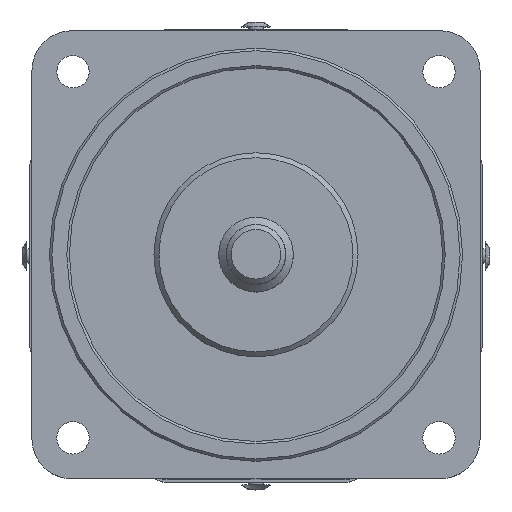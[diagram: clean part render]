
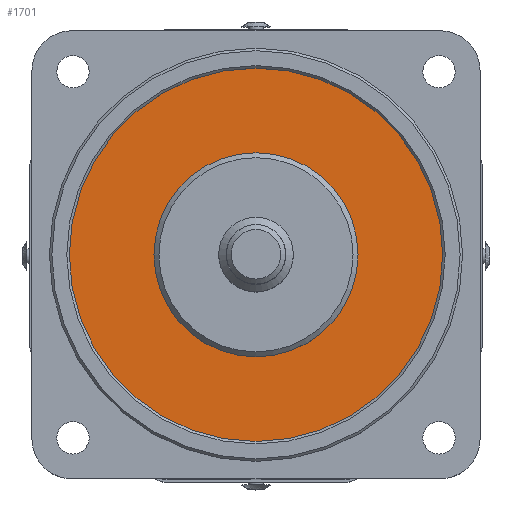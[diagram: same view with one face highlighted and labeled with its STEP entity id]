
A CAD part, top view. The second image highlights one B-rep face of the part: STEP entity #1701.
In plain terms, the highlighted planar face has unit normal (0, 0, 1).
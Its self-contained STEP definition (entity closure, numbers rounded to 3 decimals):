
#180 = AXIS2_PLACEMENT_3D ( 'NONE', #2029, #2020, #2019 ) ;
#530 = AXIS2_PLACEMENT_3D ( 'NONE', #3723, #3724, #3725 ) ;
#531 = AXIS2_PLACEMENT_3D ( 'NONE', #3727, #3728, #3729 ) ;
#1530 = VERTEX_POINT ( 'NONE', #3828 ) ;
#1531 = VERTEX_POINT ( 'NONE', #3827 ) ;
#1597 = CIRCLE ( 'NONE', #531, 37.5 ) ;
#1600 = CIRCLE ( 'NONE', #530, 20.5 ) ;
#1701 = ADVANCED_FACE ( 'NONE', ( #5899, #5893 ), #2027, .T. ) ;
#2019 = DIRECTION ( 'NONE',  ( 1., 0., 0. ) ) ;
#2020 = DIRECTION ( 'NONE',  ( 0., 0., 1. ) ) ;
#2027 = PLANE ( 'NONE',  #180 ) ;
#2029 = CARTESIAN_POINT ( 'NONE',  ( 0., 0., -2. ) ) ;
#3723 = CARTESIAN_POINT ( 'NONE',  ( 0., 0., -2. ) ) ;
#3724 = DIRECTION ( 'NONE',  ( 0., 0., 1. ) ) ;
#3725 = DIRECTION ( 'NONE',  ( 1., 0., 0. ) ) ;
#3727 = CARTESIAN_POINT ( 'NONE',  ( 0., 0., -2. ) ) ;
#3728 = DIRECTION ( 'NONE',  ( 0., 0., 1. ) ) ;
#3729 = DIRECTION ( 'NONE',  ( 1., 0., 0. ) ) ;
#3827 = CARTESIAN_POINT ( 'NONE',  ( 20.5, 0., -2. ) ) ;
#3828 = CARTESIAN_POINT ( 'NONE',  ( 37.5, 0., -2. ) ) ;
#4864 = EDGE_LOOP ( 'NONE', ( #7016 ) ) ;
#5893 = FACE_BOUND ( 'NONE', #6404, .T. ) ;
#5899 = FACE_OUTER_BOUND ( 'NONE', #4864, .T. ) ;
#6404 = EDGE_LOOP ( 'NONE', ( #6902 ) ) ;
#6902 = ORIENTED_EDGE ( 'NONE', *, *, #7541, .F. ) ;
#7016 = ORIENTED_EDGE ( 'NONE', *, *, #7542, .T. ) ;
#7541 = EDGE_CURVE ( 'NONE', #1531, #1531, #1600, .T. ) ;
#7542 = EDGE_CURVE ( 'NONE', #1530, #1530, #1597, .T. ) ;
